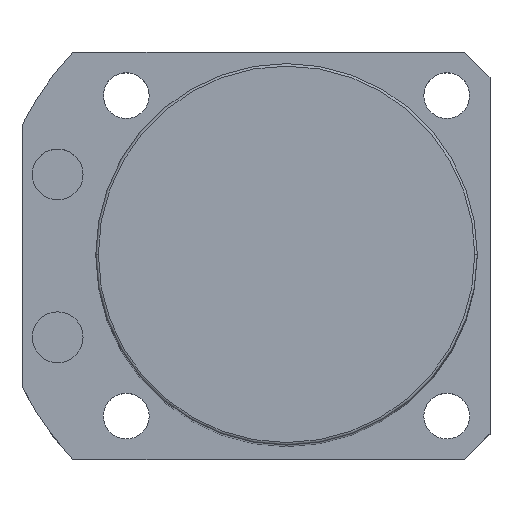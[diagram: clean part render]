
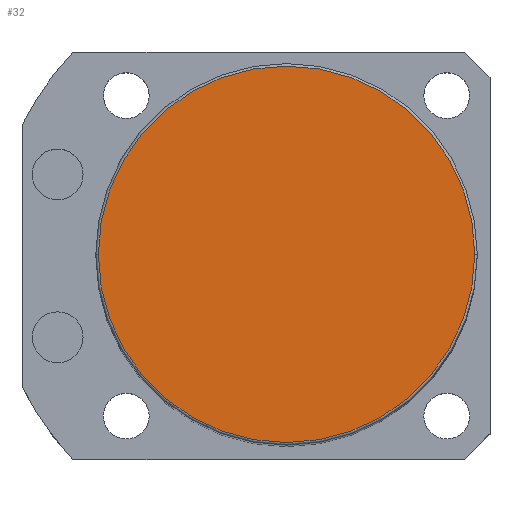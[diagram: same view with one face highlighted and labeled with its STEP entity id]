
A CAD part, top view. The second image highlights one B-rep face of the part: STEP entity #32.
In plain terms, the highlighted planar face has unit normal (0, 0, 1).
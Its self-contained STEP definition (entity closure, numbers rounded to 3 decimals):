
#32 = ADVANCED_FACE ( 'NONE', ( #50 ), #1914, .T. ) ;
#50 = FACE_OUTER_BOUND ( 'NONE', #1116, .T. ) ;
#376 = ORIENTED_EDGE ( 'NONE', *, *, #2529, .T. ) ;
#395 = CARTESIAN_POINT ( 'NONE',  ( 0., 0., 190.5 ) ) ;
#642 = CARTESIAN_POINT ( 'NONE',  ( -37., 0., 190.5 ) ) ;
#673 = DIRECTION ( 'NONE',  ( 0., 0., 1. ) ) ;
#996 = DIRECTION ( 'NONE',  ( 0., 0., 1. ) ) ;
#1031 = ORIENTED_EDGE ( 'NONE', *, *, #1372, .T. ) ;
#1116 = EDGE_LOOP ( 'NONE', ( #376, #1031 ) ) ;
#1230 = VERTEX_POINT ( 'NONE', #2553 ) ;
#1261 = AXIS2_PLACEMENT_3D ( 'NONE', #1840, #673, #1857 ) ;
#1283 = AXIS2_PLACEMENT_3D ( 'NONE', #2313, #1356, #1926 ) ;
#1356 = DIRECTION ( 'NONE',  ( 0., 0., 1. ) ) ;
#1372 = EDGE_CURVE ( 'NONE', #1930, #1230, #2074, .T. ) ;
#1613 = CIRCLE ( 'NONE', #2358, 37. ) ;
#1840 = CARTESIAN_POINT ( 'NONE',  ( 0., 0., 190.5 ) ) ;
#1857 = DIRECTION ( 'NONE',  ( 1., 0., 0. ) ) ;
#1914 = PLANE ( 'NONE',  #1283 ) ;
#1926 = DIRECTION ( 'NONE',  ( 1., 0., 0. ) ) ;
#1930 = VERTEX_POINT ( 'NONE', #642 ) ;
#2074 = CIRCLE ( 'NONE', #1261, 37. ) ;
#2313 = CARTESIAN_POINT ( 'NONE',  ( 0., 0., 190.5 ) ) ;
#2358 = AXIS2_PLACEMENT_3D ( 'NONE', #395, #996, #2601 ) ;
#2529 = EDGE_CURVE ( 'NONE', #1230, #1930, #1613, .T. ) ;
#2553 = CARTESIAN_POINT ( 'NONE',  ( 37., 0., 190.5 ) ) ;
#2601 = DIRECTION ( 'NONE',  ( 1., 0., 0. ) ) ;
